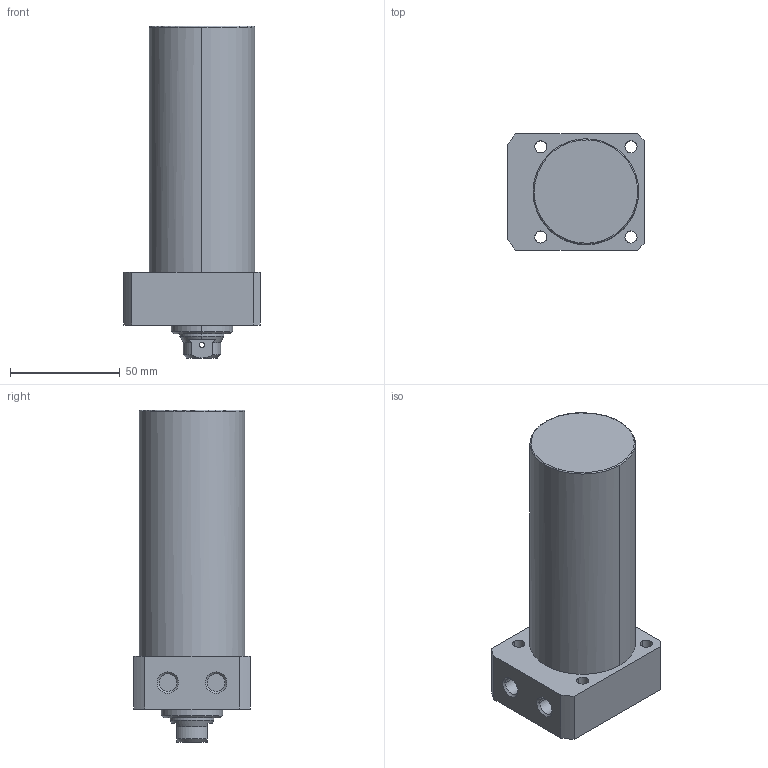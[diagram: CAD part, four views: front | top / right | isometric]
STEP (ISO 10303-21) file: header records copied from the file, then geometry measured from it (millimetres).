
FILE_DESCRIPTION((' '),'2;1');
FILE_NAME( 'TLLR-048CB-085.STEP.stp', '2025-10-24T16:34:33', (' '), ('--- Datakit www.datakit.com---'), ' Datakit CrossCadWare V2024.1 Dec 21 2023', 'Mastercam 2025', ' ');
FILE_SCHEMA(('AUTOMOTIVE_DESIGN { 1 0 10303 214 1 1 1 1 }'));
Length unit declared in the file: millimetre
Products named in the file (1): TLLR-048CB-085
Bounding box: 62 x 53 x 151 mm (x, y, z)
Volume: 280984.6 mm3; surface area: 32291.2 mm2
Topology: 1 solids, 1 shells, 67 faces, 197 edges, 136 vertices
Faces by surface type: cylinder 32, plane 19, cone 14, torus 2
Entity records: 3066 total; most frequent: CARTESIAN_POINT 1147, DIRECTION 426, ORIENTED_EDGE 390, EDGE_CURVE 195, AXIS2_PLACEMENT_3D 179, VERTEX_POINT 136, CIRCLE 111, EDGE_LOOP 85
